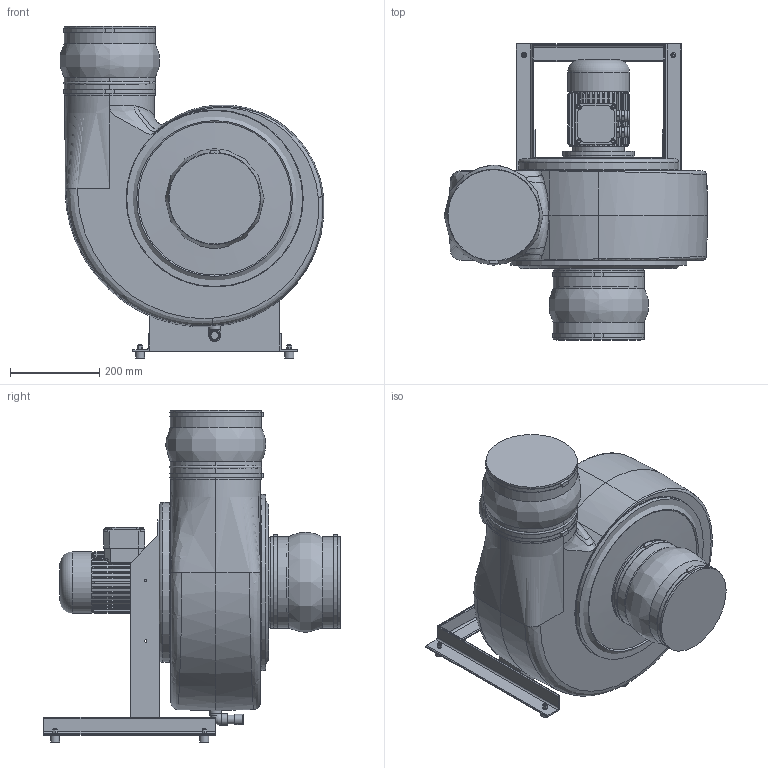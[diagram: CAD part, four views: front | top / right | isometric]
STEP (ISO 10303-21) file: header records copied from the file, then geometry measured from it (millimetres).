
FILE_DESCRIPTION( ( 'Unknown' ), '1' );
FILE_NAME( 'K:/HOME/HLT_CAD/Z/HF/3D/Zusammenstellung/HFR/HFR 15_17/HFR...-15D/DS_1/HFR_200-15D/GL360/HFR_200-15D_DS1_GL_360_071.stp', 'Unknown', ( 'Unknown' ), ( 'Unknown' ), 'PSStep 17.0.49', 'Unknown', ' ' );
FILE_SCHEMA( ( 'AUTOMOTIVE_DESIGN { 1 0 10303 214 1 1 1 1 }' ) );
Length unit declared in the file: millimetre
Products named in the file (26): 5159_Kondensatablauf_125-315; Winkel_90°_G1_2; Stopfen_G1_2-oa0; Rohr_20; Verschlusskappe_20; 5217_Laufradbefestigung; 5217_Drehteil; 5217_Flachdichtung_Ø32; 5217_Schraubkappe; 5217_Flachdichtung_Ø63; 5301_Gestell_HFR200_15_17_D_DS1; Angle 40x40x4-oa1; Angle 40x40x4-oa2; Angle 40x40x4-oa3; 5301_Gehäusebefestigungsplatte-oa4; 6203_Kugelmanschette; 6203_Manschettenband_HFR200; 6203_Schelle_HFR200; Assem1; Laufrad 200_GL; 200 mit laufrad HF R 200; 6611_Motorring_Bg71; B5_71a_2HIHI; HFR 200_GL_abgeschn; Schwidä_20x15; 6kant_M6
Assembly tree (33 placements, depth 3):
  Assem1
    Laufrad 200_GL
    200 mit laufrad HF R 200
    6611_Motorring_Bg71
    B5_71a_2HIHI
    HFR 200_GL_abgeschn
    Schwidä_20x15  x4
    6kant_M6  x4
    5159_Kondensatablauf_125-315
      Winkel_90°_G1_2
      Stopfen_G1_2-oa0
      Rohr_20
      Verschlusskappe_20
    6203_Kugelmanschette  x2
      6203_Manschettenband_HFR200
      6203_Schelle_HFR200
    5217_Laufradbefestigung
      5217_Drehteil
      5217_Flachdichtung_Ø32
      5217_Schraubkappe
      5217_Flachdichtung_Ø63
    5301_Gestell_HFR200_15_17_D_DS1
      Angle 40x40x4-oa1
      Angle 40x40x4-oa2
      Angle 40x40x4-oa3
      5301_Gehäusebefestigungsplatte-oa4
Bounding box: 590.09 x 663 x 743 mm (x, y, z)
Volume: 72309944.8 mm3; surface area: 2832476.9 mm2
Topology: 31 solids, 40 shells, 1345 faces, 3202 edges, 2039 vertices
Faces by surface type: plane 759, cylinder 320, cone 140, bspline 94, torus 24, revolution 4, sphere 4
Full cylindrical faces by diameter (mm): 3.5 x3, 4.134 x1, 4.917 x4, 4.92 x4, 5.5 x4, 6 x8, 8 x6, 9 x6, 10 x8, 10.5 x1, 11 x8, 12 x9, 13 x25, 14 x1, 16 x2, 16.8 x1, 17 x1, 20 x8, 20.955 x1, 22.212 x1, 23 x1, 24 x4, 25 x1, 26.5 x2, 30.291 x1, 32 x1, 33.25 x1, 37 x1, 40 x1, 44 x1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
Entity records: 75830 total; most frequent: CARTESIAN_POINT 37278, ORIENTED_EDGE 5524, DIRECTION 5486, EDGE_CURVE 2762, AXIS2_PLACEMENT_3D 2047, VERTEX_POINT 1852, EDGE_LOOP 1618, FACE_OUTER_BOUND 1402
